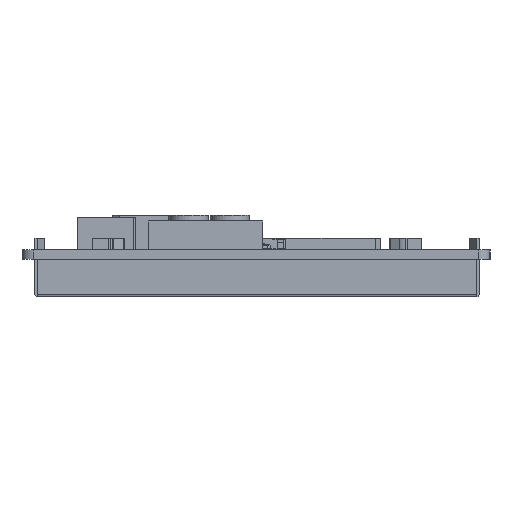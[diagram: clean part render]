
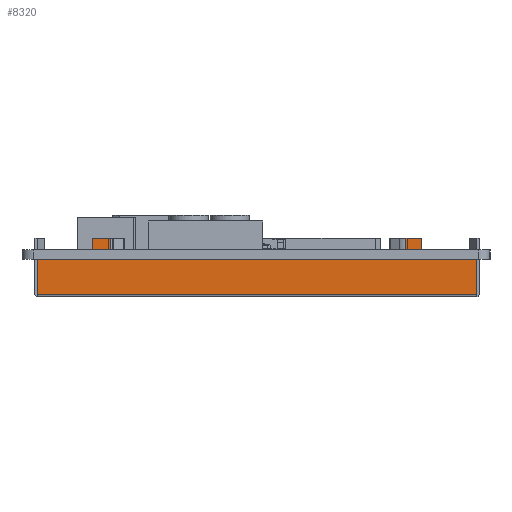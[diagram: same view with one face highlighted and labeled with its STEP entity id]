
A CAD part, left-side view. The second image highlights one B-rep face of the part: STEP entity #8320.
In plain terms, the highlighted planar face has unit normal (-1, 0, 0).
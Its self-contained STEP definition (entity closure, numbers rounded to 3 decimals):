
#3631=PLANE('',#53023);
#5952=FACE_OUTER_BOUND('',#11310,.T.);
#8320=ADVANCED_FACE('',(#5952),#3631,.F.);
#11310=EDGE_LOOP('',(#24219,#24220,#24221,#24222,#24223,#24224,#24225,#24226,
#24227,#24228,#24229,#24230,#24231,#24232,#24233,#24234));
#24219=ORIENTED_EDGE('',*,*,#35925,.F.);
#24220=ORIENTED_EDGE('',*,*,#35926,.T.);
#24221=ORIENTED_EDGE('',*,*,#35927,.T.);
#24222=ORIENTED_EDGE('',*,*,#35922,.T.);
#24223=ORIENTED_EDGE('',*,*,#35928,.T.);
#24224=ORIENTED_EDGE('',*,*,#35929,.F.);
#24225=ORIENTED_EDGE('',*,*,#35930,.T.);
#24226=ORIENTED_EDGE('',*,*,#35931,.F.);
#24227=ORIENTED_EDGE('',*,*,#35932,.F.);
#24228=ORIENTED_EDGE('',*,*,#35918,.T.);
#24229=ORIENTED_EDGE('',*,*,#35933,.T.);
#24230=ORIENTED_EDGE('',*,*,#35934,.T.);
#24231=ORIENTED_EDGE('',*,*,#35935,.F.);
#24232=ORIENTED_EDGE('',*,*,#35936,.F.);
#24233=ORIENTED_EDGE('',*,*,#35937,.F.);
#24234=ORIENTED_EDGE('',*,*,#35916,.T.);
#29257=VERTEX_POINT('',#79089);
#29259=VERTEX_POINT('',#79093);
#29260=VERTEX_POINT('',#79097);
#29262=VERTEX_POINT('',#79100);
#29264=VERTEX_POINT('',#79106);
#29266=VERTEX_POINT('',#79109);
#29268=VERTEX_POINT('',#79115);
#29269=VERTEX_POINT('',#79117);
#29270=VERTEX_POINT('',#79120);
#29271=VERTEX_POINT('',#79122);
#29272=VERTEX_POINT('',#79124);
#29273=VERTEX_POINT('',#79126);
#29274=VERTEX_POINT('',#79129);
#29275=VERTEX_POINT('',#79131);
#29276=VERTEX_POINT('',#79133);
#29277=VERTEX_POINT('',#79135);
#35916=EDGE_CURVE('',#29257,#29259,#43098,.T.);
#35918=EDGE_CURVE('',#29262,#29260,#43100,.T.);
#35922=EDGE_CURVE('',#29266,#29264,#43104,.T.);
#35925=EDGE_CURVE('',#29268,#29259,#43107,.T.);
#35926=EDGE_CURVE('',#29268,#29269,#43108,.T.);
#35927=EDGE_CURVE('',#29269,#29266,#43109,.T.);
#35928=EDGE_CURVE('',#29264,#29270,#43110,.T.);
#35929=EDGE_CURVE('',#29271,#29270,#43111,.T.);
#35930=EDGE_CURVE('',#29271,#29272,#43112,.T.);
#35931=EDGE_CURVE('',#29273,#29272,#43113,.T.);
#35932=EDGE_CURVE('',#29262,#29273,#43114,.T.);
#35933=EDGE_CURVE('',#29260,#29274,#43115,.T.);
#35934=EDGE_CURVE('',#29274,#29275,#43116,.T.);
#35935=EDGE_CURVE('',#29276,#29275,#43117,.T.);
#35936=EDGE_CURVE('',#29277,#29276,#43118,.T.);
#35937=EDGE_CURVE('',#29257,#29277,#43119,.T.);
#43098=LINE('',#79094,#49068);
#43100=LINE('',#79099,#49070);
#43104=LINE('',#79108,#49074);
#43107=LINE('',#79114,#49077);
#43108=LINE('',#79116,#49078);
#43109=LINE('',#79118,#49079);
#43110=LINE('',#79119,#49080);
#43111=LINE('',#79121,#49081);
#43112=LINE('',#79123,#49082);
#43113=LINE('',#79125,#49083);
#43114=LINE('',#79127,#49084);
#43115=LINE('',#79128,#49085);
#43116=LINE('',#79130,#49086);
#43117=LINE('',#79132,#49087);
#43118=LINE('',#79134,#49088);
#43119=LINE('',#79136,#49089);
#49068=VECTOR('',#64856,1.);
#49070=VECTOR('',#64860,1.);
#49074=VECTOR('',#64866,1.);
#49077=VECTOR('',#64871,1.);
#49078=VECTOR('',#64872,1.);
#49079=VECTOR('',#64873,1.);
#49080=VECTOR('',#64874,1.);
#49081=VECTOR('',#64875,1.);
#49082=VECTOR('',#64876,1.);
#49083=VECTOR('',#64877,1.);
#49084=VECTOR('',#64878,1.);
#49085=VECTOR('',#64879,1.);
#49086=VECTOR('',#64880,1.);
#49087=VECTOR('',#64881,1.);
#49088=VECTOR('',#64882,1.);
#49089=VECTOR('',#64883,1.);
#53023=AXIS2_PLACEMENT_3D('',#79137,#64884,#64885);
#64856=DIRECTION('',(0.,1.,0.));
#64860=DIRECTION('',(0.,1.,0.));
#64866=DIRECTION('',(0.,1.,0.));
#64871=DIRECTION('',(0.,0.,1.));
#64872=DIRECTION('',(0.,-1.,0.));
#64873=DIRECTION('',(0.,0.,1.));
#64874=DIRECTION('',(0.,0.,1.));
#64875=DIRECTION('',(0.,-1.,0.));
#64876=DIRECTION('',(0.,0.,-1.));
#64877=DIRECTION('',(0.,-1.,0.));
#64878=DIRECTION('',(0.,0.,1.));
#64879=DIRECTION('',(0.,0.,1.));
#64880=DIRECTION('',(0.,-1.,0.));
#64881=DIRECTION('',(0.,0.,-1.));
#64882=DIRECTION('',(0.,-1.,0.));
#64883=DIRECTION('',(0.,0.,1.));
#64884=DIRECTION('',(1.,0.,0.));
#64885=DIRECTION('',(0.,1.,0.));
#79089=CARTESIAN_POINT('',(59.66,45.295,-1.6));
#79093=CARTESIAN_POINT('',(59.66,54.82,-1.6));
#79094=CARTESIAN_POINT('',(59.66,-21.2,-1.6));
#79097=CARTESIAN_POINT('',(59.66,42.295,-1.6));
#79099=CARTESIAN_POINT('',(59.66,-21.2,-1.6));
#79100=CARTESIAN_POINT('',(59.66,-8.635,-1.6));
#79106=CARTESIAN_POINT('',(59.66,-11.635,-1.6));
#79108=CARTESIAN_POINT('',(59.66,-21.2,-1.6));
#79109=CARTESIAN_POINT('',(59.66,-21.2,-1.6));
#79114=CARTESIAN_POINT('',(59.66,54.82,-8.1));
#79115=CARTESIAN_POINT('',(59.66,54.82,-7.7));
#79116=CARTESIAN_POINT('',(59.66,-21.2,-7.7));
#79117=CARTESIAN_POINT('',(59.66,-21.2,-7.7));
#79118=CARTESIAN_POINT('',(59.66,-21.2,-8.1));
#79119=CARTESIAN_POINT('',(59.66,-11.635,-1.6));
#79120=CARTESIAN_POINT('',(59.66,-11.635,2.));
#79121=CARTESIAN_POINT('',(59.66,-8.924,2.));
#79122=CARTESIAN_POINT('',(59.66,-8.924,2.));
#79123=CARTESIAN_POINT('',(59.66,-8.924,2.));
#79124=CARTESIAN_POINT('',(59.66,-8.924,0.));
#79125=CARTESIAN_POINT('',(59.66,-8.635,0.));
#79126=CARTESIAN_POINT('',(59.66,-8.635,0.));
#79127=CARTESIAN_POINT('',(59.66,-8.635,-1.6));
#79128=CARTESIAN_POINT('',(59.66,42.295,-1.6));
#79129=CARTESIAN_POINT('',(59.66,42.295,0.));
#79130=CARTESIAN_POINT('',(59.66,45.295,0.));
#79131=CARTESIAN_POINT('',(59.66,42.191,0.));
#79132=CARTESIAN_POINT('',(59.66,42.191,2.));
#79133=CARTESIAN_POINT('',(59.66,42.191,2.));
#79134=CARTESIAN_POINT('',(59.66,45.295,2.));
#79135=CARTESIAN_POINT('',(59.66,45.295,2.));
#79136=CARTESIAN_POINT('',(59.66,45.295,-1.6));
#79137=CARTESIAN_POINT('',(59.66,-21.2,-8.1));
